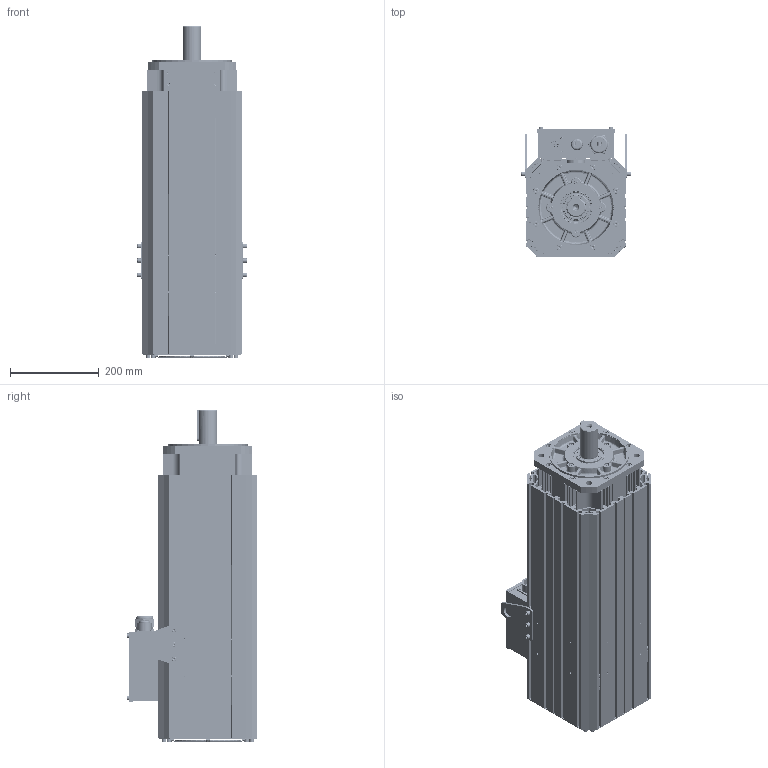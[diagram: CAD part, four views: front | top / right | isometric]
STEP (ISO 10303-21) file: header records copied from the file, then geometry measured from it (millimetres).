
FILE_DESCRIPTION (( 'STEP AP214' ), '1' );
FILE_NAME ('VM7-M20D-02015-D2FNH.STEP', '2022-04-02T01:51:09', ( '' ), ( '' ), 'SwSTEP 2.0', 'SolidWorks 2014', '' );
FILE_SCHEMA (( 'AUTOMOTIVE_DESIGN' ));
Length unit declared in the file: millimetre
Products named in the file (3): 俋褲ㄗVM7-M20Dㄘ; VM7-M20D-02015-D2FNH; 翋极ㄗVM7-M20Dㄘ
Assembly tree (2 placements, depth 2):
  VM7-M20D-02015-D2FNH
    翋极ㄗVM7-M20Dㄘ
    俋褲ㄗVM7-M20Dㄘ
Bounding box: 246.2 x 294.7 x 748 mm (x, y, z)
Volume: 2134379.2 mm3; surface area: 3268800.7 mm2
Topology: 45 solids, 183 shells, 5660 faces, 14472 edges, 9117 vertices
Faces by surface type: plane 3221, cylinder 1323, cone 587, bspline 529
Entity records: 187119 total; most frequent: CARTESIAN_POINT 50233, ORIENTED_EDGE 28442, DIRECTION 27688, EDGE_CURVE 14230, AXIS2_PLACEMENT_3D 9527, VERTEX_POINT 9117, LINE 8634, VECTOR 8634
